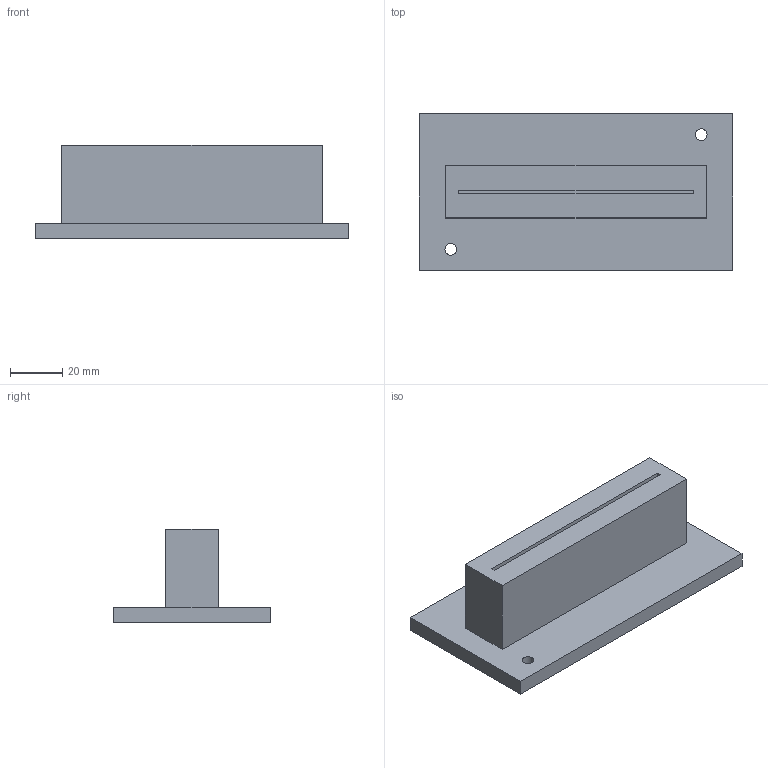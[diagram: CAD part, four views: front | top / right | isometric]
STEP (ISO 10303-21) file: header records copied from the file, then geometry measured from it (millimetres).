
FILE_DESCRIPTION(('Open CASCADE Model'),'2;1');
FILE_NAME('Open CASCADE Shape Model','2026-10-21T16:53:51',('Author'),( 'Open CASCADE'),'Open CASCADE STEP processor 7.9','Open CASCADE 7.9' ,'Unknown');
FILE_SCHEMA(('AUTOMOTIVE_DESIGN { 1 0 10303 214 1 1 1 1 }'));
Length unit declared in the file: millimetre
Products named in the file (1): Open CASCADE STEP translator 7.9 4
Bounding box: 120 x 60 x 36 mm (x, y, z)
Volume: 99607.1 mm3; surface area: 28801.6 mm2
Topology: 1 solids, 1 shells, 18 faces, 42 edges, 28 vertices
Faces by surface type: plane 16, cylinder 2
Full cylindrical faces by diameter (mm): 4.5 x2
Entity records: 1086 total; most frequent: CARTESIAN_POINT 197, DIRECTION 164, LINE 118, VECTOR 118, ORIENTED_EDGE 84, PCURVE 84, DEFINITIONAL_REPRESENTATION 84, EDGE_CURVE 42
